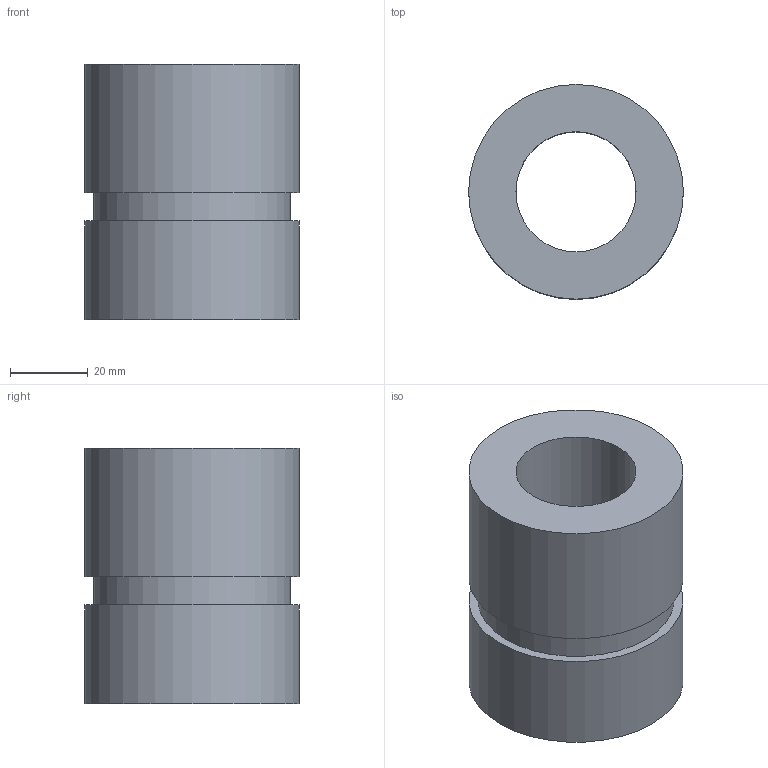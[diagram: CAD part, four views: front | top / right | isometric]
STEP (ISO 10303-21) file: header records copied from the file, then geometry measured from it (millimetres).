
FILE_DESCRIPTION(('Mechanical CAD reference from nasji.com'),'2;1');
FILE_NAME('NASJI.step','',(''),(''),'','NASJI distribution','');
FILE_SCHEMA(('AUTOMOTIVE_DESIGN { 1 0 10303 214 1 1 1 1 }'));
Length unit declared in the file: millimetre
Products named in the file (1): Open CASCADE STEP translator 7.8 106
Bounding box: 55.42 x 55.42 x 65.9 mm (x, y, z)
Volume: 106387.7 mm3; surface area: 21883.1 mm2
Topology: 1 solids, 1 shells, 8 faces, 12 edges, 8 vertices
Faces by surface type: plane 4, cylinder 4
Full cylindrical faces by diameter (mm): 31 x1, 50.72 x1, 55.42 x2
Entity records: 354 total; most frequent: DIRECTION 62, CARTESIAN_POINT 53, ORIENTED_EDGE 24, PCURVE 24, DEFINITIONAL_REPRESENTATION 24, LINE 20, VECTOR 20, AXIS2_PLACEMENT_3D 17
